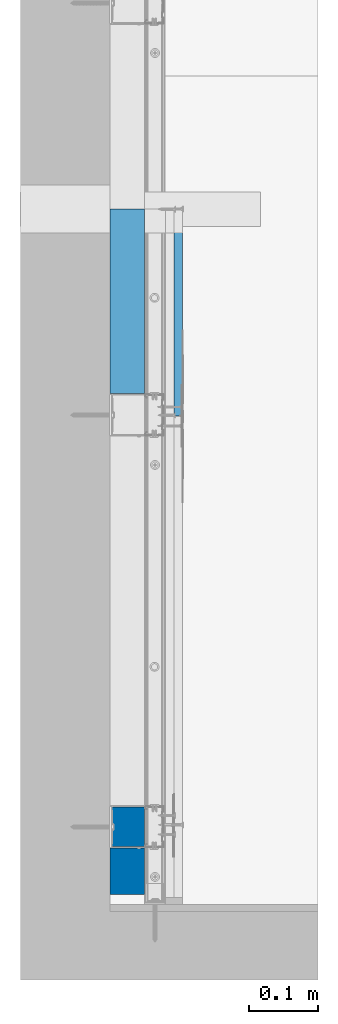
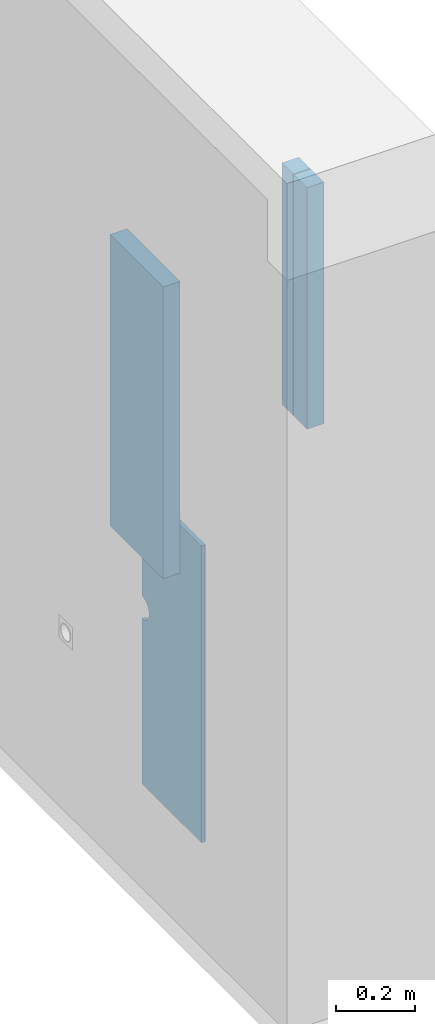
# One storey, part 8 of 61: 4 walls.
"""IFC2X3 building model written with IfcOpenShell, lengths in millimetres."""

import ifcopenshell
import ifcopenshell.guid

model = None  # the IFC model being written
_history = None  # IfcOwnerHistory: only IFC2X3 demands one
_inside = {}  # id of a spatial element -> (the spatial element, [elements in it])
_under = {}  # id of a project, library or spatial element -> (it, [spatial elements below it])
_declared = {}  # id of a project -> (the project, [libraries it declares])
_typed = {}  # id of a type object -> (the type object, [elements of that type])
_made_of = {}  # id of a material, layer set ... -> (it, [elements and type objects made of it])


def new_model(schema):
    """Start an empty IFC model of exactly this schema.

    Asked for "IFC4X3", IfcOpenShell would pick the latest addendum, in which some entities
    have other attributes; the version numbers below select the first issue.
    IFC2X3 requires an IfcOwnerHistory on every rooted entity: one is made here for all.
    """
    global model, _history
    if schema == "IFC4X3":
        model = ifcopenshell.file(schema_version=(4, 3, 0, 0))
    else:
        model = ifcopenshell.file(schema=schema)
    _inside.clear()
    _under.clear()
    _declared.clear()
    _typed.clear()
    _made_of.clear()
    _history = None
    if model.schema == "IFC2X3":
        org = make("IfcOrganization", Name="unknown")
        user = make(
            "IfcPersonAndOrganization",
            ThePerson=make("IfcPerson", FamilyName="unknown"),
            TheOrganization=org,
        )
        app = make(
            "IfcApplication",
            ApplicationDeveloper=org,
            Version="unknown",
            ApplicationFullName="unknown",
            ApplicationIdentifier="unknown",
        )
        _history = make(
            "IfcOwnerHistory",
            OwningUser=user,
            OwningApplication=app,
            ChangeAction="ADDED",
            CreationDate=0,
        )
    return model


def make(cls, **values):
    """One entity of the class cls with the attributes given. An attribute that is None is left unset."""
    return model.create_entity(
        cls, **{name: value for name, value in values.items() if value is not None}
    )


def rooted(cls, **values):
    """An entity with a GlobalId (a new one), such as an element, a storey or a relation."""
    return make(cls, GlobalId=ifcopenshell.guid.new(), OwnerHistory=_history, **values)


def si_unit(unit_type, name, prefix=None):
    """IfcSIUnit, for example si_unit("LENGTHUNIT", "METRE", prefix="MILLI")."""
    return make("IfcSIUnit", UnitType=unit_type, Prefix=prefix, Name=name)


def assignment(units):
    """IfcUnitAssignment: the units of a project."""
    return None if units is None else make("IfcUnitAssignment", Units=units)


def point(xyz):
    """IfcCartesianPoint."""
    return None if xyz is None else make("IfcCartesianPoint", Coordinates=xyz)


def direction(xyz):
    """IfcDirection."""
    return None if xyz is None else make("IfcDirection", DirectionRatios=xyz)


def frame(location, z_axis=None, x_axis=None):
    """IfcAxis2Placement3D, a coordinate frame: its origin and axes. An axis left out is left unset."""
    return make(
        "IfcAxis2Placement3D",
        Location=point(location),
        Axis=direction(z_axis),
        RefDirection=direction(x_axis),
    )


def origin_with_axes():
    """The frame at (0, 0, 0) with the z axis (0, 0, 1) and the x axis (1, 0, 0) written out."""
    return frame((0.0, 0.0, 0.0), z_axis=(0.0, 0.0, 1.0), x_axis=(1.0, 0.0, 0.0))


def place(relative_to, where):
    """IfcLocalPlacement: puts the frame where relative to a parent placement (None: the world)."""
    return make(
        "IfcLocalPlacement", PlacementRelTo=relative_to, RelativePlacement=where
    )


def context(
    kind, dimensions, precision=None, world=None, true_north=None, identifier=None
):
    """IfcGeometricRepresentationContext, for example the 3D "Model" context."""
    return make(
        "IfcGeometricRepresentationContext",
        ContextIdentifier=identifier,
        ContextType=kind,
        CoordinateSpaceDimension=dimensions,
        Precision=precision,
        WorldCoordinateSystem=world,
        TrueNorth=true_north,
    )


def subcontext(parent, identifier, kind, view, scale=None):
    """IfcGeometricRepresentationSubContext, for example "Body" below "Model"."""
    return make(
        "IfcGeometricRepresentationSubContext",
        ContextIdentifier=identifier,
        ContextType=kind,
        ParentContext=parent,
        TargetScale=scale,
        TargetView=view,
    )


def project(units=None, contexts=None):
    """IfcProject with its units and contexts."""
    return rooted(
        "IfcProject",
        Name="project",
        RepresentationContexts=contexts,
        UnitsInContext=assignment(units),
    )


def spatial(cls, under=None, at=None, **own):
    """A site, building, storey or space (cls), placed at a placement, below another one or the project."""
    s = rooted(cls, ObjectPlacement=at, **own)
    if under is not None:
        _under.setdefault(under.id(), (under, []))[1].append(s)
    return s


def faces_of(points, faces, orient=None, outer=None):
    """IfcFace entities. A face is a list of loops; a loop is a list of indices into points, from 0.

    orient and outer hold one flag for each loop. By default every Orientation is true, the
    first loop of a face is its IfcFaceOuterBound and the others are IfcFaceBound.
    """
    made = []
    for i, loops in enumerate(faces):
        bounds = []
        for j, loop in enumerate(loops):
            is_outer = j == 0 if outer is None else outer[i][j]
            bounds.append(
                make(
                    "IfcFaceOuterBound" if is_outer else "IfcFaceBound",
                    Bound=make("IfcPolyLoop", Polygon=[points[k] for k in loop]),
                    Orientation=True if orient is None else orient[i][j],
                )
            )
        made.append(make("IfcFace", Bounds=bounds))
    return made


def faceted_brep(points, faces, orient=None, outer=None, voids=None):
    """IfcFacetedBrep: a solid bounded by flat faces; with voids (closed shells), ...WithVoids."""
    shared = [point(p) for p in points]
    hull = make("IfcClosedShell", CfsFaces=faces_of(shared, faces, orient, outer))
    if voids is None:
        return make("IfcFacetedBrep", Outer=hull)
    return make(
        "IfcFacetedBrepWithVoids",
        Outer=hull,
        Voids=[
            make(cls, CfsFaces=faces_of(shared, fs, o, b)) for cls, fs, o, b in voids
        ],
    )


def shape(context_of_items, identifier, shape_type, items):
    """IfcShapeRepresentation: the items that make up one representation, for example the "Body"."""
    return make(
        "IfcShapeRepresentation",
        ContextOfItems=context_of_items,
        RepresentationIdentifier=identifier,
        RepresentationType=shape_type,
        Items=items,
    )


def material(Name=None, Category=None):
    """IfcMaterial."""
    return make("IfcMaterial", Name=Name, Category=Category)


def made_of(thing, what):
    """Note that an element or type object is made of a material, layer set ...; save() writes the relation."""
    if what is not None:
        _made_of.setdefault(what.id(), (what, []))[1].append(thing)
    return thing


def type_object(cls, material=None, **own):
    """A type object (cls), such as IfcWallType, which elements share."""
    return made_of(rooted(cls, **own), material)


def element(
    cls,
    number,
    at=None,
    inside=None,
    cuts=None,
    type_object=None,
    material=None,
    context=None,
    identifier="Body",
    shape_type=None,
    held_by="IfcProductDefinitionShape",
    body=None,
    shapes=None,
    **own,
):
    """One element of the class cls, such as IfcWall. Its Tag is "e" and its number.

    at: its placement. inside: the storey or other place that contains it. cuts: it is an
    opening in that element (IfcRelVoidsElement). A single representation is given by context,
    identifier, shape_type and body (its items); several are given by shapes. held_by: the class
    of the entity that holds the representations. save() writes the other relations.
    """
    e = rooted(cls, Tag="e%d" % number, ObjectPlacement=at, **own)
    if body is not None:
        shapes = [shape(context, identifier, shape_type, body)]
    if shapes is not None:
        e.Representation = make(held_by, Representations=shapes)
    if inside is not None:
        _inside.setdefault(inside.id(), (inside, []))[1].append(e)
    if cuts is not None:
        rooted(
            "IfcRelVoidsElement", RelatingBuildingElement=cuts, RelatedOpeningElement=e
        )
    if type_object is not None:
        _typed.setdefault(type_object.id(), (type_object, []))[1].append(e)
    return made_of(e, material)


def aggregate(whole, parts):
    """IfcRelAggregates: a whole, such as a stair, and the parts it consists of."""
    return rooted("IfcRelAggregates", RelatingObject=whole, RelatedObjects=parts)


def save(model, path):
    """Write the relations noted so far, then the file.

    IfcRelAggregates (storeys below a building ...), IfcRelContainedInSpatialStructure (elements
    in a storey), IfcRelDefinesByType, IfcRelAssociatesMaterial and IfcRelDeclares: one each for
    every whole, place, type object, material and project.
    """
    for whole, parts in _under.values():
        aggregate(whole, parts)
    for where, things in _inside.values():
        rooted(
            "IfcRelContainedInSpatialStructure",
            RelatedElements=things,
            RelatingStructure=where,
        )
    for kind, things in _typed.values():
        rooted("IfcRelDefinesByType", RelatedObjects=things, RelatingType=kind)
    for what, things in _made_of.values():
        rooted("IfcRelAssociatesMaterial", RelatedObjects=things, RelatingMaterial=what)
    for by, libraries in _declared.values():
        rooted("IfcRelDeclares", RelatingContext=by, RelatedDefinitions=libraries)
    model.write(path)


model = new_model("IFC2X3")

# Units and contexts
model_context = context("Model", 3, world=origin_with_axes())
body_context = subcontext(model_context, "Body", "Model", "MODEL_VIEW")
ifc_project = project(units=[si_unit("LENGTHUNIT", "METRE", prefix="MILLI"), si_unit("AREAUNIT", "SQUARE_METRE"), si_unit("VOLUMEUNIT", "CUBIC_METRE")], contexts=[model_context])

# Site, building, storey
site_placement = place(None, frame((2152.1410261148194, -2015.0250894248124, 57.61556563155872), z_axis=(0.0, 0.0, 1.0), x_axis=(-1.1102230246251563e-16, 1.0, 0.0)))
site = spatial("IfcSite", under=ifc_project, at=site_placement, Name="Default Site", CompositionType="ELEMENT")
building_placement = place(site_placement, origin_with_axes())
building = spatial("IfcBuilding", under=site, at=building_placement, Name="Default Building", CompositionType="ELEMENT")
storey_placement = place(building_placement, origin_with_axes())
storey = spatial("IfcBuildingStorey", under=building, at=storey_placement, Name="Default Building Storey", CompositionType="ELEMENT", Elevation=57.61556563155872)

# Walls
ifc_material_1 = material(Name="Undefined")
wall_type_1 = type_object("IfcWallType", Name="Wypełnienie z wełny mineralnej szklanej ISOVER#9", PredefinedType="NOTDEFINED")
wall_1_placement = place(storey_placement, frame((2702.576545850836, 5350.42414647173, 895.3595813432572), z_axis=(0.0, 0.0, 1.0), x_axis=(-1.0, 4.718447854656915e-16, 0.0)))
element("IfcWall", 1, at=wall_1_placement, inside=storey, type_object=wall_type_1, material=ifc_material_1, Name="Wypełnienie z wełny mineralnej szklanej ISOVER", context=body_context, shape_type="Brep", body=[
    faceted_brep([(-166.46054244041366, 3328.2832634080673, -51.71597384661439), (-166.46054244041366, 3378.2831687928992, -51.71597384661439), (-166.46054244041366, 3378.2831687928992, 851.5436077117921), (-166.46054244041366, 3328.2832634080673, 851.5436077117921), (-435.4605332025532, 3378.283168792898, 851.5436077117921), (-435.4605332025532, 3378.283168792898, -51.71597384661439), (-435.4605332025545, 3328.2832634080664, -51.71597384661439), (-435.4605332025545, 3328.2832634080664, 851.5436077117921)], [[[0, 1, 2, 3]], [[4, 2, 1, 5]], [[5, 1, 0, 6]], [[6, 0, 3, 7]]]),
    faceted_brep([(-435.4605332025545, 3328.2832634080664, 851.5436077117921), (-435.4605332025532, 3378.283168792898, 851.5436077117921), (-435.4605332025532, 3378.283168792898, -51.71597384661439), (-435.4605332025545, 3328.2832634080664, -51.71597384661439), (-166.46054244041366, 3328.2832634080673, 851.5436077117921), (-166.46054244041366, 3378.2831687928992, 851.5436077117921)], [[[0, 1, 2, 3]], [[0, 4, 5, 1]]]),
])
wall_type_2 = type_object("IfcWallType", Name="Wypełnienie z wełny mineralnej szklanej ISOVER#20", PredefinedType="NOTDEFINED")
wall_2_placement = place(storey_placement, frame((1971.1842541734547, 5350.424146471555, 1801.00318943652), z_axis=(0.0, 0.0, 1.0), x_axis=(-1.0, 4.718447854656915e-16, 0.0)))
element("IfcWall", 2, at=wall_2_placement, inside=storey, type_object=wall_type_2, material=ifc_material_1, Name="Wypełnienie z wełny mineralnej szklanej ISOVER", context=body_context, shape_type="Brep", body=[
    faceted_brep([(-168.12478005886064, 3328.283263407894, -52.10000038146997), (-168.12478005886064, 3328.283263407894, 695.543607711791), (-236.00283265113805, 3328.283263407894, 695.543607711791), (-236.00283265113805, 3328.283263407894, -52.10000038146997), (-236.00283265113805, 3378.283168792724, 695.543607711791), (-168.12478005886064, 3378.2831687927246, 695.543607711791), (-168.12478005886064, 3378.2831687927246, -52.10000038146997), (-236.00283265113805, 3378.283168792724, -52.10000038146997)], [[[0, 1, 2, 3]], [[4, 5, 6, 7]], [[7, 6, 0, 3]]]),
    faceted_brep([(-168.12478005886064, 3328.283263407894, -52.10000038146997), (-168.12478005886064, 3378.2831687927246, -52.10000038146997), (-168.12478005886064, 3378.2831687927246, 695.543607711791), (-168.12478005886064, 3328.283263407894, 695.543607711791), (-236.00283265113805, 3328.283263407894, 695.543607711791), (-236.00283265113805, 3378.283168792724, 695.543607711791), (-236.00283265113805, 3378.283168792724, -52.10000038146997), (-236.00283265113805, 3328.283263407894, -52.10000038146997)], [[[0, 1, 2, 3]], [[4, 5, 6, 7]], [[5, 4, 3, 2]]]),
])
ifc_material_2 = material(Name="Default")
wall_type_3 = type_object("IfcWallType", Name="Wypełnienie z wełny mineralnej szklanej ISOVER#19", PredefinedType="NOTDEFINED")
wall_3_placement = place(storey_placement, frame((2041.0623067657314, 5350.424146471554, 1800.619162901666), z_axis=(0.0, 0.0, 1.0), x_axis=(-1.0, 4.718447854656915e-16, 0.0)))
element("IfcWall", 3, at=wall_3_placement, inside=storey, type_object=wall_type_3, material=ifc_material_2, Name="Wypełnienie z wełny mineralnej szklanej ISOVER", context=body_context, shape_type="Brep", body=[
    faceted_brep([(-168.12478005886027, 3328.2832634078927, -51.71597384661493), (-168.12478005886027, 3328.2832634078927, 695.9276342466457), (-225.9747815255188, 3328.2832634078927, 695.9276342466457), (-225.9747815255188, 3328.2832634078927, -51.71597384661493), (-225.97478152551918, 3378.283168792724, 695.9276342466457), (-168.12478005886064, 3378.283168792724, 695.9276342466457), (-168.12478005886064, 3378.283168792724, -51.71597384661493), (-225.97478152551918, 3378.283168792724, -51.71597384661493)], [[[0, 1, 2, 3]], [[4, 5, 6, 7]], [[7, 6, 0, 3]]]),
    faceted_brep([(-168.12478005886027, 3328.2832634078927, -51.71597384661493), (-168.12478005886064, 3378.283168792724, -51.71597384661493), (-168.12478005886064, 3378.283168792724, 695.9276342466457), (-168.12478005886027, 3328.2832634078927, 695.9276342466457), (-225.9747815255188, 3328.2832634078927, 695.9276342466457), (-225.97478152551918, 3378.283168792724, 695.9276342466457), (-225.97478152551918, 3378.283168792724, -51.71597384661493), (-225.9747815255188, 3328.2832634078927, -51.71597384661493)], [[[0, 1, 2, 3]], [[4, 5, 6, 7]], [[5, 4, 3, 2]]]),
])
ifc_material_3 = material(Name="Undefined7")
wall_type_4 = type_object("IfcWallType", Name="Płyta gipsowo-kartonowa RIGIPS PRO (4PRO™)#6", PredefinedType="NOTDEFINED")
wall_4_placement = place(storey_placement, frame((2836.5063704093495, 1928.6800775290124, 1062.3900398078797), z_axis=(0.0, 0.0, 1.0), x_axis=(1.0, 0.0, 0.0)))
element("IfcWall", 4, at=wall_4_placement, inside=storey, type_object=wall_type_4, material=ifc_material_3, Name="Płyta gipsowo-kartonowa RIGIPS PRO (4PRO™)", context=body_context, shape_type="Brep", body=[
    faceted_brep([(41.00000113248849, -11.500000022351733, -1050.001621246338), (45.00000178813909, -12.50000018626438, -1050.001621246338), (45.00000178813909, -12.50000018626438, -130.9999999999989), (41.00000113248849, -11.500000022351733, -130.9999999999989), (1.0000000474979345, -11.500000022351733, -1050.001621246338), (1.0000000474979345, -11.500000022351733, -130.9999999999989), (0.7411809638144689, -11.465925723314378, -1050.001621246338), (0.7411809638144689, -11.465925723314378, -130.9999999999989), (0.5000000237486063, -11.36602554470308, -1050.001621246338), (0.5000000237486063, -11.36602554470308, -130.9999999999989), (0.2928932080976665, -11.207106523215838, -1050.001621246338), (0.2928932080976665, -11.207106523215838, -130.9999999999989), (0.1339745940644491, -10.999999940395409, -1050.001621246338), (0.1339745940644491, -10.999999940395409, -130.9999999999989), (0.03407417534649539, -10.758819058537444, -1050.001621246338), (0.03407417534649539, -10.758819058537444, -130.9999999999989), (-3.609557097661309e-12, -10.499999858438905, -1050.001621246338), (-3.609557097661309e-12, -10.499999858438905, -130.9999999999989), (0.0, 0.0, -1050.001621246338), (0.0, 0.0, -130.9999999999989), (301.5307086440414, -9.294212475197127e-08, -1050.001621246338), (301.5307086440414, -12.500000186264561, -1050.001621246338), (301.5307086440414, -12.500000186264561, -130.9999999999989), (301.5307086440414, -9.294212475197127e-08, -130.9999999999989), (301.53070864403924, -12.500000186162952, -468.0625222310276), (301.53070864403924, -9.294212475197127e-08, -468.0625222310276), (299.33304046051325, -12.500000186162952, -468.13158673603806), (297.14404546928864, -12.500000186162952, -468.3385076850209), (294.9723626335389, -12.500000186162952, -468.6824684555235), (292.8265625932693, -12.500000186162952, -469.1621115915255), (290.71511384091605, -12.500000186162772, -469.7755441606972), (288.6463493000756, -12.500000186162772, -470.52034522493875), (286.62843343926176, -12.500000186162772, -471.39357539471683), (284.6693300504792, -12.500000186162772, -472.3917884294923), (282.7767708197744, -12.500000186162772, -473.511044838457), (280.9582248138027, -12.500000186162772, -474.7469274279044), (279.2208690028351, -12.500000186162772, -476.0945587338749), (277.57155993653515, -12.500000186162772, -477.54862027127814), (276.01680668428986, -12.500000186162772, -479.10337352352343), (274.5627451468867, -12.500000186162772, -480.75268258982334), (273.21511384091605, -12.500000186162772, -482.490038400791), (271.9792312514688, -12.500000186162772, -484.3085844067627), (270.8599748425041, -12.500000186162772, -486.2011436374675), (269.86176180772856, -12.500000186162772, -488.16024702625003), (268.98853163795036, -12.500000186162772, -490.1781628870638), (268.24373057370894, -12.500000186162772, -492.2469274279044), (267.6302980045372, -12.500000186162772, -494.3583761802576), (267.1506548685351, -12.500000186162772, -496.5041762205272), (266.80669409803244, -12.500000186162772, -498.6758590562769), (266.5997731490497, -12.500000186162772, -500.8648540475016), (266.53070864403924, -12.500000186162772, -503.0625222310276), (266.5997731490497, -12.500000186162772, -505.2601904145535), (266.80669409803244, -12.500000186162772, -507.4491854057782), (267.1506548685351, -12.500000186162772, -509.62086824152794), (267.6302980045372, -12.500000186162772, -511.7666682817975), (268.2437305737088, -12.500000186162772, -513.8781170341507), (268.98853163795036, -12.500000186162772, -515.9468815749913), (269.86176180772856, -12.500000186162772, -517.964797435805), (270.8599748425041, -12.500000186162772, -519.9239008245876), (271.9792312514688, -12.500000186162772, -521.8164600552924), (273.21511384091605, -12.500000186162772, -523.6350060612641), (274.5627451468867, -12.500000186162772, -525.3723618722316), (276.01680668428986, -12.500000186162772, -527.0216709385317), (277.57155993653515, -12.500000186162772, -528.576424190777), (279.2208690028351, -12.500000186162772, -530.0304857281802), (280.9582248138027, -12.500000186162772, -531.3781170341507), (282.7767708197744, -12.500000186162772, -532.613999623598), (284.6693300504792, -12.500000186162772, -533.7332560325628), (286.6284334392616, -12.500000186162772, -534.7314690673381), (288.6463493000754, -12.500000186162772, -535.6046992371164), (290.71511384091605, -12.500000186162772, -536.3495003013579), (292.8265625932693, -12.500000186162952, -536.9629328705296), (294.9723626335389, -12.500000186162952, -537.4425760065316), (297.14404546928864, -12.500000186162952, -537.7865367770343), (299.33304046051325, -12.500000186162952, -537.993457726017), (301.53070864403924, -12.500000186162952, -538.0625222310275), (299.33304046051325, -9.294212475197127e-08, -468.13158673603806), (297.14404546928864, -9.294212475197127e-08, -468.3385076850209), (294.9723626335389, -9.294212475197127e-08, -468.6824684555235), (292.8265625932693, -9.294212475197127e-08, -469.1621115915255), (290.71511384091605, -9.294194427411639e-08, -469.7755441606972), (288.6463493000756, -9.294194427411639e-08, -470.52034522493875), (286.62843343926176, -9.294194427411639e-08, -471.39357539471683), (284.6693300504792, -9.294194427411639e-08, -472.3917884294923), (282.7767708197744, -9.294194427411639e-08, -473.511044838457), (280.9582248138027, -9.294194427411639e-08, -474.7469274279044), (279.2208690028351, -9.294194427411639e-08, -476.0945587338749), (277.57155993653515, -9.294194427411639e-08, -477.54862027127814), (276.01680668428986, -9.294194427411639e-08, -479.10337352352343), (274.5627451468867, -9.294194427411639e-08, -480.75268258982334), (273.21511384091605, -9.294194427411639e-08, -482.490038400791), (271.9792312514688, -9.294194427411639e-08, -484.3085844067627), (270.8599748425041, -9.294194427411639e-08, -486.2011436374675), (269.86176180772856, -9.294194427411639e-08, -488.16024702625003), (268.98853163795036, -9.294194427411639e-08, -490.1781628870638), (268.24373057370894, -9.294194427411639e-08, -492.2469274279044), (267.6302980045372, -9.294194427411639e-08, -494.3583761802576), (267.1506548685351, -9.294194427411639e-08, -496.5041762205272), (266.80669409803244, -9.294194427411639e-08, -498.6758590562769), (266.5997731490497, -9.294194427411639e-08, -500.8648540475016), (266.53070864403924, -9.294194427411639e-08, -503.0625222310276), (266.5997731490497, -9.294194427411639e-08, -505.2601904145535), (266.80669409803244, -9.294194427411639e-08, -507.4491854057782), (267.1506548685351, -9.294194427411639e-08, -509.62086824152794), (267.6302980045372, -9.294194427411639e-08, -511.7666682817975), (268.2437305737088, -9.294194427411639e-08, -513.8781170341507), (268.98853163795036, -9.294194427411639e-08, -515.9468815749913), (269.86176180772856, -9.294194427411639e-08, -517.964797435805), (270.8599748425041, -9.294194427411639e-08, -519.9239008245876), (271.9792312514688, -9.294194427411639e-08, -521.8164600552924), (273.21511384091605, -9.294194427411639e-08, -523.6350060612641), (274.5627451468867, -9.294194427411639e-08, -525.3723618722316), (276.01680668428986, -9.294194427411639e-08, -527.0216709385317), (277.57155993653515, -9.294194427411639e-08, -528.576424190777), (279.2208690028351, -9.294194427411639e-08, -530.0304857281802), (280.9582248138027, -9.294194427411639e-08, -531.3781170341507), (282.7767708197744, -9.294194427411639e-08, -532.613999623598), (284.6693300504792, -9.294194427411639e-08, -533.7332560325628), (286.6284334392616, -9.294194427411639e-08, -534.7314690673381), (288.6463493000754, -9.294194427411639e-08, -535.6046992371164), (290.71511384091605, -9.294194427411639e-08, -536.3495003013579), (292.8265625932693, -9.294212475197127e-08, -536.9629328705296), (294.9723626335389, -9.294212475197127e-08, -537.4425760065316), (297.14404546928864, -9.294212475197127e-08, -537.7865367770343), (299.33304046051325, -9.294212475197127e-08, -537.993457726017), (301.53070864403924, -9.294212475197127e-08, -538.0625222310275)], [[[0, 1, 2, 3]], [[4, 0, 3, 5]], [[6, 4, 5, 7]], [[8, 6, 7, 9]], [[10, 8, 9, 11]], [[12, 10, 11, 13]], [[14, 12, 13, 15]], [[16, 14, 15, 17]], [[18, 16, 17, 19]], [[0, 4, 6, 8, 10, 12, 14, 16, 18, 20, 21, 1]], [[2, 22, 23, 19, 17, 15, 13, 11, 9, 7, 5, 3]], [[22, 24, 25, 23]], [[22, 24, 26, 27, 28, 29, 30, 31, 32, 33, 34, 35, 36, 37, 38, 39, 40, 41, 42, 43, 44, 45, 46, 47, 48, 49, 50, 51, 52, 53, 54, 55, 56, 57, 58, 59, 60, 61, 62, 63, 64, 65, 66, 67, 68, 69, 70, 71, 72, 73, 74, 75, 21, 1, 2]], [[27, 26, 76, 77]], [[28, 27, 77, 78]], [[29, 28, 78, 79]], [[30, 29, 79, 80]], [[31, 30, 80, 81]], [[32, 31, 81, 82]], [[33, 32, 82, 83]], [[34, 33, 83, 84]], [[35, 34, 84, 85]], [[36, 35, 85, 86]], [[37, 36, 86, 87]], [[38, 37, 87, 88]], [[39, 38, 88, 89]], [[40, 39, 89, 90]], [[41, 40, 90, 91]], [[42, 41, 91, 92]], [[43, 42, 92, 93]], [[44, 43, 93, 94]], [[45, 44, 94, 95]], [[46, 45, 95, 96]], [[47, 46, 96, 97]], [[48, 47, 97, 98]], [[49, 48, 98, 99]], [[50, 49, 99, 100]], [[51, 50, 100, 101]], [[52, 51, 101, 102]], [[53, 52, 102, 103]], [[54, 53, 103, 104]], [[55, 54, 104, 105]], [[56, 55, 105, 106]], [[57, 56, 106, 107]], [[58, 57, 107, 108]], [[59, 58, 108, 109]], [[60, 59, 109, 110]], [[61, 60, 110, 111]], [[62, 61, 111, 112]], [[63, 62, 112, 113]], [[64, 63, 113, 114]], [[65, 64, 114, 115]], [[66, 65, 115, 116]], [[67, 66, 116, 117]], [[68, 67, 117, 118]], [[69, 68, 118, 119]], [[70, 69, 119, 120]], [[71, 70, 120, 121]], [[72, 71, 121, 122]], [[73, 72, 122, 123]], [[74, 73, 123, 124]], [[75, 74, 124, 125]], [[23, 25, 76, 77, 78, 79, 80, 81, 82, 83, 84, 85, 86, 87, 88, 89, 90, 91, 92, 93, 94, 95, 96, 97, 98, 99, 100, 101, 102, 103, 104, 105, 106, 107, 108, 109, 110, 111, 112, 113, 114, 115, 116, 117, 118, 119, 120, 121, 122, 123, 124, 125, 20, 18, 19]], [[20, 125, 75, 21]], [[24, 26, 76, 25]]]),
])

save(model, "model.ifc")
